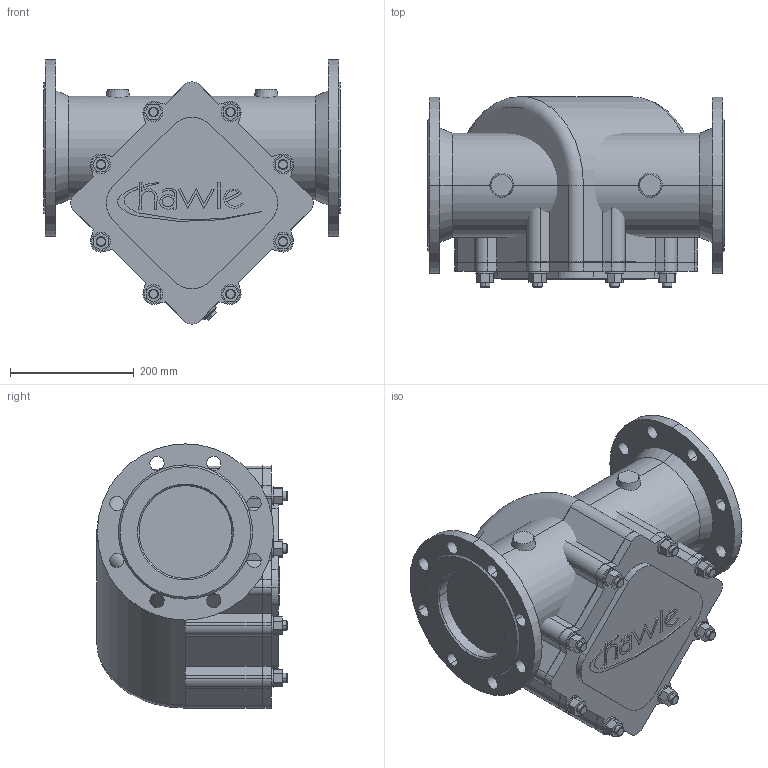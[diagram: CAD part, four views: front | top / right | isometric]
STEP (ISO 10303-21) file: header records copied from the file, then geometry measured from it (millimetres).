
FILE_DESCRIPTION(('STEP AP214'),'1');
FILE_NAME('S:/EK/USER/CAT6/3DHomepage_27-04-2012/neu_22-02-2013/9911/9911_PN16_DN150.STP','2013-02-26T13:25:38',(' '),(' '),'Spatial InterOp 3D',' ',' ');
FILE_SCHEMA(('automotive_design'));
Length unit declared in the file: millimetre
Products named in the file (57): 3D-Objekt
Bounding box: 480 x 308.2 x 427.33 mm (x, y, z)
Volume: 40307657.1 mm3; surface area: 2112652.2 mm2
Topology: 57 solids, 57 shells, 475 faces, 1078 edges, 718 vertices
Faces by surface type: plane 270, cylinder 167, cone 34, torus 4
Entity records: 18761 total; most frequent: DIRECTION 2546, CARTESIAN_POINT 2478, ORIENTED_EDGE 2156, EDGE_CURVE 1078, AXIS2_PLACEMENT_3D 942, VERTEX_POINT 718, LINE 662, VECTOR 662
